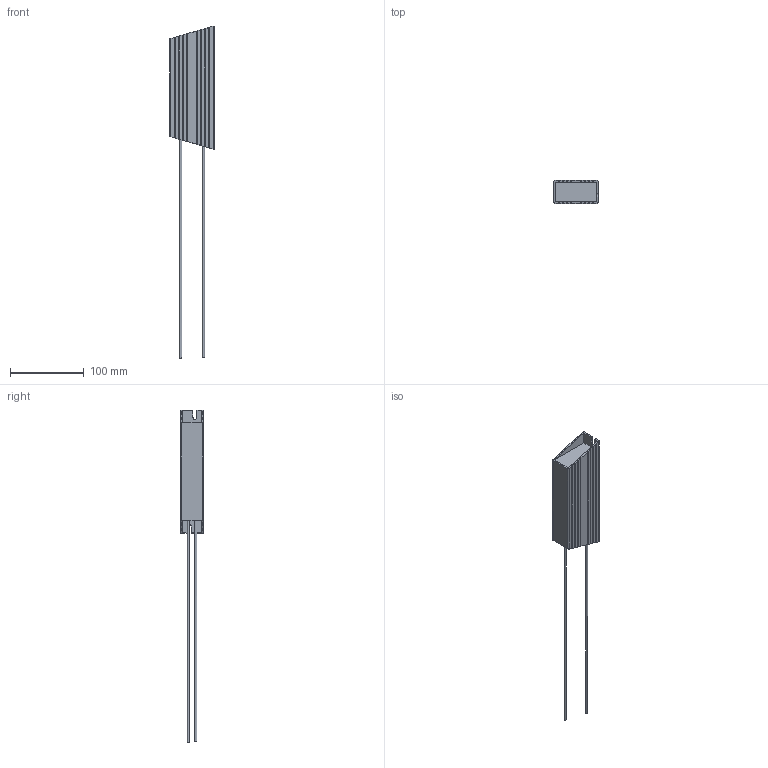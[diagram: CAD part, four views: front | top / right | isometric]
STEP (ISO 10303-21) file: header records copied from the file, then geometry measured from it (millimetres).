
FILE_DESCRIPTION(/* description */ (''),/* implementation_level */ '2;1');
FILE_NAME(/* name */ 'C:\_Vault\Dati\CATALOGO\RFP\UL2014-Def\RFP V 200.stp',/* time_stamp */ '2014-03-24T16:05:35+01:00',/* author */ ('stefano'),/* organization */ (''),/* preprocessor_version */ 'ST-DEVELOPER v15.2',/* originating_system */ 'Autodesk Inventor 2014',/* authorisation */ '');
FILE_SCHEMA (('AUTOMOTIVE_DESIGN { 1 0 10303 214 3 1 1 }'));
Length unit declared in the file: millimetre
Products named in the file (1): RFP V 200
Bounding box: 60 x 31 x 449.8 mm (x, y, z)
Volume: 135202.1 mm3; surface area: 144304.1 mm2
Topology: 3 solids, 4 shells, 524 faces, 1564 edges, 975 vertices
Faces by surface type: plane 301, cylinder 149, bspline 42, torus 20, cone 8, sphere 4
Full cylindrical faces by diameter (mm): 1 x23, 1.5 x12, 1.8 x8, 1.95 x2, 3.1 x6, 3.2 x4, 3.4 x2
Entity records: 20046 total; most frequent: CARTESIAN_POINT 5897, ORIENTED_EDGE 2880, DIRECTION 2694, EDGE_CURVE 1420, VERTEX_POINT 938, LINE 932, VECTOR 932, AXIS2_PLACEMENT_3D 881
